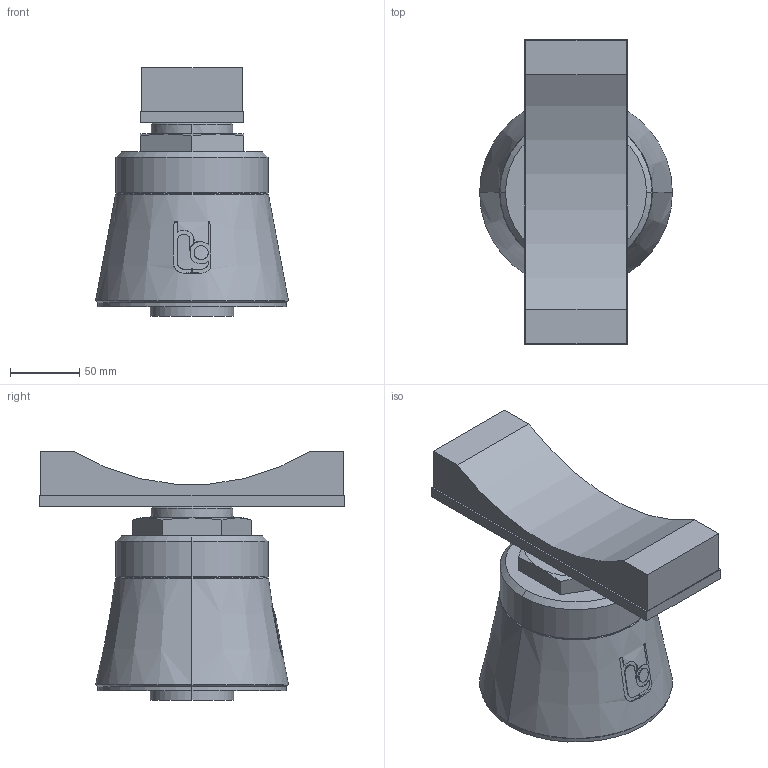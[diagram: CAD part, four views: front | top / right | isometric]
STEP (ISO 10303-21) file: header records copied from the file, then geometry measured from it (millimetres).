
FILE_DESCRIPTION(('STEP AP214'),'1');
FILE_NAME('RSRFS2_DN300.stp','2018-07-02T06:13:45',(' '),(' '),'Spatial InterOp 3D',' ',' ');
FILE_SCHEMA(('automotive_design'));
Length unit declared in the file: millimetre
Products named in the file (6): 1; 2; 3; 4; 5; 6
Bounding box: 139.44 x 220 x 180 mm (x, y, z)
Volume: 2181807.6 mm3; surface area: 236188.7 mm2
Topology: 6 solids, 6 shells, 127 faces, 313 edges, 202 vertices
Faces by surface type: plane 59, cylinder 37, cone 27, torus 4
Entity records: 5434 total; most frequent: CARTESIAN_POINT 1283, DIRECTION 639, ORIENTED_EDGE 626, EDGE_CURVE 313, AXIS2_PLACEMENT_3D 242, VERTEX_POINT 202, LINE 155, VECTOR 155
